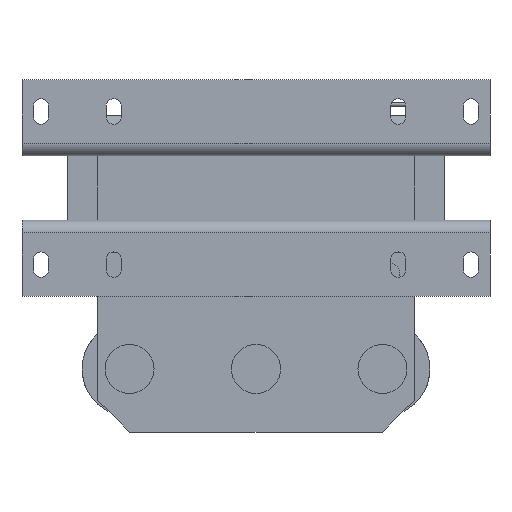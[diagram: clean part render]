
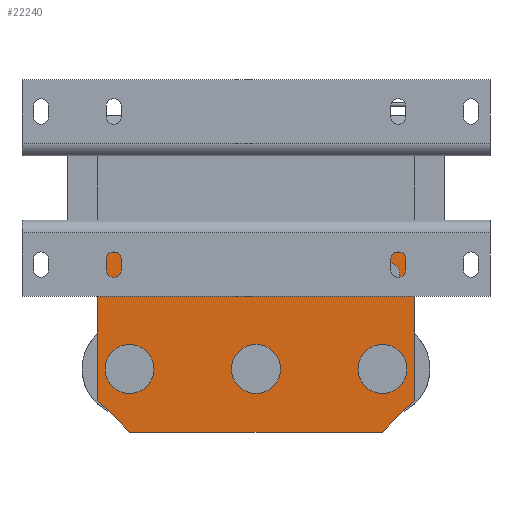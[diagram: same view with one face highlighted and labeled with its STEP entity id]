
A CAD part, front view. The second image highlights one B-rep face of the part: STEP entity #22240.
In plain terms, the highlighted planar face has unit normal (0, -1, 0).
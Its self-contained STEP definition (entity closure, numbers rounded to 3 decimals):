
#28 = CARTESIAN_POINT ( 'NONE',  ( -40., 23.5, -77.2 ) ) ;
#162 = FACE_OUTER_BOUND ( 'NONE', #16996, .T. ) ;
#541 = ORIENTED_EDGE ( 'NONE', *, *, #23636, .F. ) ;
#745 = AXIS2_PLACEMENT_3D ( 'NONE', #22173, #12664, #20027 ) ;
#852 = VECTOR ( 'NONE', #4681, 1000. ) ;
#863 = VERTEX_POINT ( 'NONE', #10982 ) ;
#1266 = VERTEX_POINT ( 'NONE', #5288 ) ;
#1283 = EDGE_CURVE ( 'NONE', #8385, #10201, #6909, .T. ) ;
#1317 = EDGE_CURVE ( 'NONE', #1266, #11902, #16167, .T. ) ;
#1731 = CARTESIAN_POINT ( 'NONE',  ( -50., 23.5, -67.2 ) ) ;
#1808 = AXIS2_PLACEMENT_3D ( 'NONE', #18164, #16593, #14651 ) ;
#1985 = PLANE ( 'NONE',  #1808 ) ;
#2205 = ORIENTED_EDGE ( 'NONE', *, *, #20216, .T. ) ;
#2545 = CARTESIAN_POINT ( 'NONE',  ( 40., 23.5, -77.2 ) ) ;
#2571 = CARTESIAN_POINT ( 'NONE',  ( 0., 23.5, -57.2 ) ) ;
#2939 = EDGE_LOOP ( 'NONE', ( #20354, #19683 ) ) ;
#3155 = DIRECTION ( 'NONE',  ( 0., -1., 0. ) ) ;
#3527 = ORIENTED_EDGE ( 'NONE', *, *, #8383, .F. ) ;
#3639 = VERTEX_POINT ( 'NONE', #20631 ) ;
#3702 = ORIENTED_EDGE ( 'NONE', *, *, #22641, .T. ) ;
#4019 = DIRECTION ( 'NONE',  ( 0., -1., 0. ) ) ;
#4047 = AXIS2_PLACEMENT_3D ( 'NONE', #12459, #3155, #21855 ) ;
#4140 = VECTOR ( 'NONE', #20545, 1000. ) ;
#4245 = VERTEX_POINT ( 'NONE', #28 ) ;
#4247 = EDGE_CURVE ( 'NONE', #11902, #1266, #16256, .T. ) ;
#4681 = DIRECTION ( 'NONE',  ( 0., 0., -1. ) ) ;
#4751 = EDGE_CURVE ( 'NONE', #13003, #12236, #12543, .T. ) ;
#4831 = EDGE_CURVE ( 'NONE', #19308, #20838, #9065, .T. ) ;
#5121 = VERTEX_POINT ( 'NONE', #2545 ) ;
#5195 = AXIS2_PLACEMENT_3D ( 'NONE', #2571, #13919, #10290 ) ;
#5288 = CARTESIAN_POINT ( 'NONE',  ( -40., 23.5, -49.45 ) ) ;
#5514 = DIRECTION ( 'NONE',  ( 0., 0., 1. ) ) ;
#5655 = CARTESIAN_POINT ( 'NONE',  ( -50., 23.5, -12.2 ) ) ;
#5713 = CARTESIAN_POINT ( 'NONE',  ( -40., 23.5, -57.2 ) ) ;
#5764 = CARTESIAN_POINT ( 'NONE',  ( 42., 23.5, -23.7 ) ) ;
#5915 = CARTESIAN_POINT ( 'NONE',  ( 0., 23.5, -57.2 ) ) ;
#6154 = DIRECTION ( 'NONE',  ( 0., 0., 1. ) ) ;
#6280 = CARTESIAN_POINT ( 'NONE',  ( -40., 23.5, -64.95 ) ) ;
#6392 = CARTESIAN_POINT ( 'NONE',  ( 50., 23.5, -12.2 ) ) ;
#6412 = VECTOR ( 'NONE', #7469, 1000. ) ;
#6467 = DIRECTION ( 'NONE',  ( 0., -1., 0. ) ) ;
#6599 = ORIENTED_EDGE ( 'NONE', *, *, #13567, .F. ) ;
#6639 = CARTESIAN_POINT ( 'NONE',  ( 0., 23.5, -49.45 ) ) ;
#6694 = DIRECTION ( 'NONE',  ( -1., 0., 0. ) ) ;
#6707 = DIRECTION ( 'NONE',  ( 0., 0., 1. ) ) ;
#6909 = CIRCLE ( 'NONE', #745, 3.5 ) ;
#7417 = FACE_BOUND ( 'NONE', #13037, .T. ) ;
#7467 = VERTEX_POINT ( 'NONE', #1731 ) ;
#7469 = DIRECTION ( 'NONE',  ( 0., 0., -1. ) ) ;
#8383 = EDGE_CURVE ( 'NONE', #23596, #863, #19307, .T. ) ;
#8385 = VERTEX_POINT ( 'NONE', #12051 ) ;
#8905 = AXIS2_PLACEMENT_3D ( 'NONE', #13701, #22041, #5514 ) ;
#8921 = LINE ( 'NONE', #16293, #19103 ) ;
#9065 = CIRCLE ( 'NONE', #4047, 7.75 ) ;
#9217 = DIRECTION ( 'NONE',  ( 0., 0., 1. ) ) ;
#9310 = ORIENTED_EDGE ( 'NONE', *, *, #19291, .T. ) ;
#9908 = CARTESIAN_POINT ( 'NONE',  ( 50., 23.5, -16.2 ) ) ;
#10058 = CIRCLE ( 'NONE', #8905, 3.5 ) ;
#10066 = CARTESIAN_POINT ( 'NONE',  ( 50., 23.5, -77.2 ) ) ;
#10201 = VERTEX_POINT ( 'NONE', #5764 ) ;
#10290 = DIRECTION ( 'NONE',  ( 0., 0., 1. ) ) ;
#10841 = LINE ( 'NONE', #5655, #6412 ) ;
#10982 = CARTESIAN_POINT ( 'NONE',  ( 50., 23.5, -67.2 ) ) ;
#11086 = VECTOR ( 'NONE', #17281, 1000. ) ;
#11326 = EDGE_LOOP ( 'NONE', ( #22524, #12767 ) ) ;
#11902 = VERTEX_POINT ( 'NONE', #6280 ) ;
#12051 = CARTESIAN_POINT ( 'NONE',  ( 42., 23.5, -30.7 ) ) ;
#12236 = VERTEX_POINT ( 'NONE', #17703 ) ;
#12459 = CARTESIAN_POINT ( 'NONE',  ( 40., 23.5, -57.2 ) ) ;
#12543 = CIRCLE ( 'NONE', #5195, 7.75 ) ;
#12664 = DIRECTION ( 'NONE',  ( 0., -1., 0. ) ) ;
#12767 = ORIENTED_EDGE ( 'NONE', *, *, #1283, .F. ) ;
#13003 = VERTEX_POINT ( 'NONE', #6639 ) ;
#13037 = EDGE_LOOP ( 'NONE', ( #13840, #23478 ) ) ;
#13097 = FACE_BOUND ( 'NONE', #16847, .T. ) ;
#13567 = EDGE_CURVE ( 'NONE', #5121, #4245, #15856, .T. ) ;
#13701 = CARTESIAN_POINT ( 'NONE',  ( 42., 23.5, -27.2 ) ) ;
#13840 = ORIENTED_EDGE ( 'NONE', *, *, #1317, .F. ) ;
#13919 = DIRECTION ( 'NONE',  ( 0., -1., 0. ) ) ;
#14275 = LINE ( 'NONE', #18151, #4140 ) ;
#14651 = DIRECTION ( 'NONE',  ( 0., 0., 1. ) ) ;
#14779 = FACE_BOUND ( 'NONE', #2939, .T. ) ;
#14946 = DIRECTION ( 'NONE',  ( 0., 0., 1. ) ) ;
#14982 = CIRCLE ( 'NONE', #18048, 7.75 ) ;
#15452 = LINE ( 'NONE', #9908, #11086 ) ;
#15520 = CARTESIAN_POINT ( 'NONE',  ( 40., 23.5, -64.95 ) ) ;
#15599 = EDGE_CURVE ( 'NONE', #10201, #8385, #10058, .T. ) ;
#15856 = LINE ( 'NONE', #10066, #17750 ) ;
#16104 = CARTESIAN_POINT ( 'NONE',  ( 50., 23.5, -16.2 ) ) ;
#16114 = EDGE_CURVE ( 'NONE', #12236, #13003, #19358, .T. ) ;
#16167 = CIRCLE ( 'NONE', #19670, 7.75 ) ;
#16256 = CIRCLE ( 'NONE', #19354, 7.75 ) ;
#16293 = CARTESIAN_POINT ( 'NONE',  ( -50., 23.5, -67.2 ) ) ;
#16593 = DIRECTION ( 'NONE',  ( 0., 1., 0. ) ) ;
#16629 = ORIENTED_EDGE ( 'NONE', *, *, #22797, .T. ) ;
#16847 = EDGE_LOOP ( 'NONE', ( #21711, #541 ) ) ;
#16996 = EDGE_LOOP ( 'NONE', ( #3702, #3527, #16629, #9310, #2205, #6599 ) ) ;
#17281 = DIRECTION ( 'NONE',  ( -1., 0., 0. ) ) ;
#17703 = CARTESIAN_POINT ( 'NONE',  ( 0., 23.5, -64.95 ) ) ;
#17750 = VECTOR ( 'NONE', #6694, 1000. ) ;
#17913 = DIRECTION ( 'NONE',  ( 0., -1., 0. ) ) ;
#18048 = AXIS2_PLACEMENT_3D ( 'NONE', #21524, #17913, #6707 ) ;
#18151 = CARTESIAN_POINT ( 'NONE',  ( 40., 23.5, -77.2 ) ) ;
#18164 = CARTESIAN_POINT ( 'NONE',  ( 50., 23.5, -12.2 ) ) ;
#18415 = FACE_BOUND ( 'NONE', #11326, .T. ) ;
#19103 = VECTOR ( 'NONE', #21589, 1000. ) ;
#19291 = EDGE_CURVE ( 'NONE', #3639, #7467, #10841, .T. ) ;
#19307 = LINE ( 'NONE', #6392, #852 ) ;
#19308 = VERTEX_POINT ( 'NONE', #22647 ) ;
#19354 = AXIS2_PLACEMENT_3D ( 'NONE', #5713, #4019, #9217 ) ;
#19358 = CIRCLE ( 'NONE', #20516, 7.75 ) ;
#19670 = AXIS2_PLACEMENT_3D ( 'NONE', #21178, #6467, #14946 ) ;
#19683 = ORIENTED_EDGE ( 'NONE', *, *, #16114, .F. ) ;
#20027 = DIRECTION ( 'NONE',  ( 0., 0., 1. ) ) ;
#20216 = EDGE_CURVE ( 'NONE', #7467, #4245, #8921, .T. ) ;
#20354 = ORIENTED_EDGE ( 'NONE', *, *, #4751, .F. ) ;
#20411 = DIRECTION ( 'NONE',  ( 0., -1., 0. ) ) ;
#20516 = AXIS2_PLACEMENT_3D ( 'NONE', #5915, #20411, #6154 ) ;
#20545 = DIRECTION ( 'NONE',  ( 0.707, 0., 0.707 ) ) ;
#20631 = CARTESIAN_POINT ( 'NONE',  ( -50., 23.5, -16.2 ) ) ;
#20838 = VERTEX_POINT ( 'NONE', #15520 ) ;
#21178 = CARTESIAN_POINT ( 'NONE',  ( -40., 23.5, -57.2 ) ) ;
#21524 = CARTESIAN_POINT ( 'NONE',  ( 40., 23.5, -57.2 ) ) ;
#21589 = DIRECTION ( 'NONE',  ( 0.707, 0., -0.707 ) ) ;
#21711 = ORIENTED_EDGE ( 'NONE', *, *, #4831, .F. ) ;
#21855 = DIRECTION ( 'NONE',  ( 0., 0., 1. ) ) ;
#22041 = DIRECTION ( 'NONE',  ( 0., -1., 0. ) ) ;
#22173 = CARTESIAN_POINT ( 'NONE',  ( 42., 23.5, -27.2 ) ) ;
#22240 = ADVANCED_FACE ( 'NONE', ( #18415, #7417, #14779, #13097, #162 ), #1985, .F. ) ;
#22524 = ORIENTED_EDGE ( 'NONE', *, *, #15599, .F. ) ;
#22641 = EDGE_CURVE ( 'NONE', #5121, #863, #14275, .T. ) ;
#22647 = CARTESIAN_POINT ( 'NONE',  ( 40., 23.5, -49.45 ) ) ;
#22797 = EDGE_CURVE ( 'NONE', #23596, #3639, #15452, .T. ) ;
#23478 = ORIENTED_EDGE ( 'NONE', *, *, #4247, .F. ) ;
#23596 = VERTEX_POINT ( 'NONE', #16104 ) ;
#23636 = EDGE_CURVE ( 'NONE', #20838, #19308, #14982, .T. ) ;
